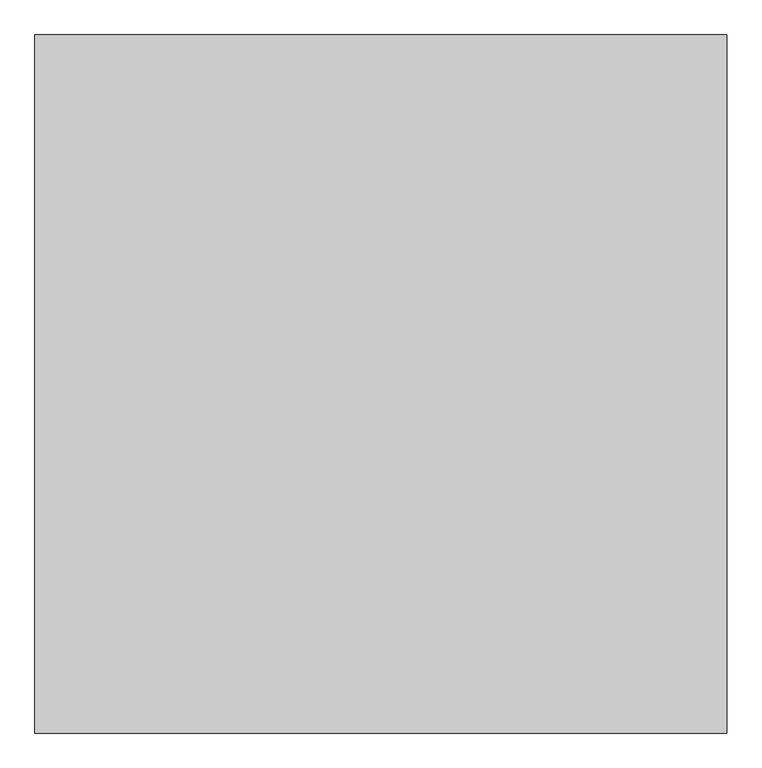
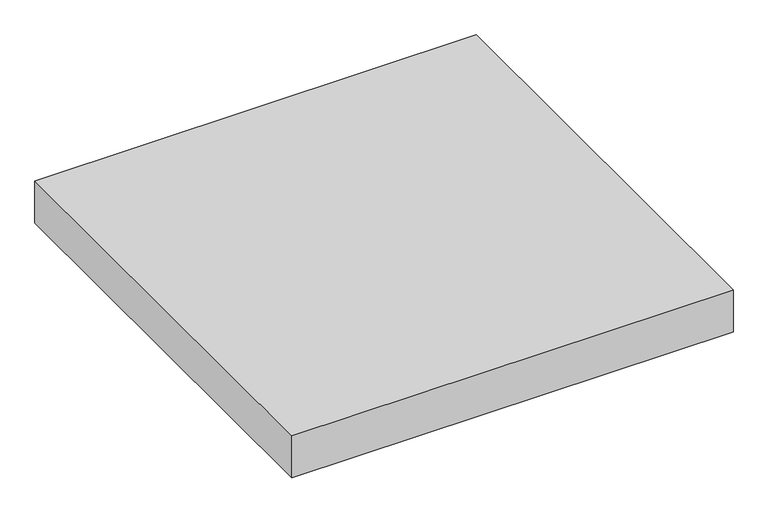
"""IFC4 building model written with IfcOpenShell, lengths in millimetres: proxy geometry, Modelos genéricos 2 : Modelos genéricos 1."""

from ifc_helpers import new_model, si_unit, origin, origin_with_axes, place, context, project, spatial, polyline, outline, extrude, source, transform, mapped, element, save


def generic_models_9b3acfd8(model_context):
    return source(origin(), model_context, "Body", "SweptSolid", [
        extrude(outline(polyline([(-14238.7989811, 8954.287186), (-14238.7989811, 7454.287186), (-15725.6026359, 7454.287186), (-15725.6026359, 8954.287186), (-14238.7989811, 8954.287186)])), origin_with_axes(), (0.0, 0.0, 1.0), 150.0),
    ])


if __name__ == "__main__":
    model = new_model("IFC4")
    model_context = context("Model", 3, world=origin())
    ifc_project = project(units=[si_unit("LENGTHUNIT", "METRE", prefix="MILLI")], contexts=[model_context])
    site = spatial("IfcSite", under=ifc_project)
    building = spatial("IfcBuilding", under=site)
    placement = place(None, origin())
    generic_models_shape = generic_models_9b3acfd8(model_context)
    element("IfcBuildingElementProxy", 1, Name="Modelos genéricos 2 : Modelos genéricos 1", ObjectType="Modelos genéricos 2 : Modelos genéricos 1", at=placement, inside=building, context=model_context, shape_type="MappedRepresentation", body=[
        mapped(generic_models_shape, transform((0.0, 0.0, 0.0), x_axis=(1.0, 0.0, 0.0), y_axis=(0.0, 1.0, 0.0), z_axis=(0.0, 0.0, 1.0))),
    ])
    save(model, "model.ifc")
